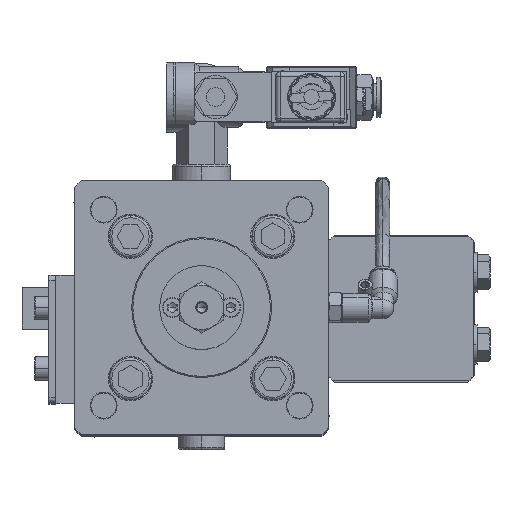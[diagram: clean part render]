
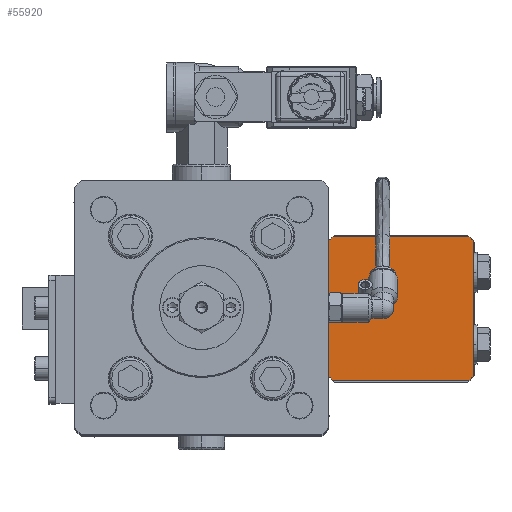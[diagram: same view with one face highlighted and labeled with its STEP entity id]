
A CAD part, top view. The second image highlights one B-rep face of the part: STEP entity #55920.
In plain terms, the highlighted planar face has unit normal (0, 0, 1) as drawn and (0, -1, 0) by its records, which use the part's own axes.
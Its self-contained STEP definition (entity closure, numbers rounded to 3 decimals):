
#950 = CARTESIAN_POINT ( 'NONE',  ( 0., 0., 0. ) ) ;
#6390 = ORIENTED_EDGE ( 'NONE', *, *, #63032, .T. ) ;
#7809 = VECTOR ( 'NONE', #36343, 1000. ) ;
#9004 = VERTEX_POINT ( 'NONE', #52318 ) ;
#9287 = DIRECTION ( 'NONE',  ( 0., 0., 1. ) ) ;
#11586 = AXIS2_PLACEMENT_3D ( 'NONE', #75279, #25251, #83586 ) ;
#15072 = CIRCLE ( 'NONE', #96145, 42.5 ) ;
#15161 = ORIENTED_EDGE ( 'NONE', *, *, #25064, .F. ) ;
#16680 = VECTOR ( 'NONE', #58995, 1000. ) ;
#17198 = CARTESIAN_POINT ( 'NONE',  ( 0., 0., 0. ) ) ;
#18181 = CARTESIAN_POINT ( 'NONE',  ( -31., 0., -31. ) ) ;
#19671 = DIRECTION ( 'NONE',  ( 0., 0., 1. ) ) ;
#21986 = VERTEX_POINT ( 'NONE', #73497 ) ;
#23433 = VERTEX_POINT ( 'NONE', #65931 ) ;
#23732 = EDGE_CURVE ( 'NONE', #36375, #9004, #52206, .T. ) ;
#25064 = EDGE_CURVE ( 'NONE', #23433, #100071, #38842, .T. ) ;
#25251 = DIRECTION ( 'NONE',  ( 0., -1., 0. ) ) ;
#25472 = DIRECTION ( 'NONE',  ( 0., 0., 1. ) ) ;
#26483 = DIRECTION ( 'NONE',  ( -1., 0., 0. ) ) ;
#28626 = VERTEX_POINT ( 'NONE', #107740 ) ;
#29617 = ORIENTED_EDGE ( 'NONE', *, *, #66560, .F. ) ;
#30367 = EDGE_CURVE ( 'NONE', #36375, #21986, #76104, .T. ) ;
#31589 = DIRECTION ( 'NONE',  ( 0., 0., -1. ) ) ;
#32347 = DIRECTION ( 'NONE',  ( 0., -1., 0. ) ) ;
#33143 = VECTOR ( 'NONE', #31589, 1000. ) ;
#36343 = DIRECTION ( 'NONE',  ( 0., 0., 1. ) ) ;
#36375 = VERTEX_POINT ( 'NONE', #90974 ) ;
#38842 = LINE ( 'NONE', #42157, #16680 ) ;
#40511 = CARTESIAN_POINT ( 'NONE',  ( 31., 0., 29.073 ) ) ;
#42157 = CARTESIAN_POINT ( 'NONE',  ( -31., 0., 31. ) ) ;
#43402 = LINE ( 'NONE', #18181, #62991 ) ;
#47626 = CIRCLE ( 'NONE', #85002, 42.5 ) ;
#47973 = VERTEX_POINT ( 'NONE', #40511 ) ;
#52206 = LINE ( 'NONE', #69907, #7809 ) ;
#52318 = CARTESIAN_POINT ( 'NONE',  ( -31., 0., 29.073 ) ) ;
#55643 = ORIENTED_EDGE ( 'NONE', *, *, #103709, .F. ) ;
#55920 = ADVANCED_FACE ( 'NONE', ( #75080 ), #61329, .F. ) ;
#56865 = AXIS2_PLACEMENT_3D ( 'NONE', #950, #59232, #9287 ) ;
#58085 = EDGE_CURVE ( 'NONE', #28626, #83311, #47626, .T. ) ;
#58995 = DIRECTION ( 'NONE',  ( 1., 0., 0. ) ) ;
#59232 = DIRECTION ( 'NONE',  ( 0., -1., 0. ) ) ;
#61329 = PLANE ( 'NONE',  #78984 ) ;
#62991 = VECTOR ( 'NONE', #26483, 1000. ) ;
#63032 = EDGE_CURVE ( 'NONE', #47973, #100071, #102625, .T. ) ;
#65931 = CARTESIAN_POINT ( 'NONE',  ( -29.073, 0., 31. ) ) ;
#66560 = EDGE_CURVE ( 'NONE', #28626, #21986, #43402, .T. ) ;
#69698 = DIRECTION ( 'NONE',  ( 0., 1., 0. ) ) ;
#69907 = CARTESIAN_POINT ( 'NONE',  ( -31., 0., -31. ) ) ;
#73199 = CARTESIAN_POINT ( 'NONE',  ( 31., 0., -31. ) ) ;
#73497 = CARTESIAN_POINT ( 'NONE',  ( -29.073, 0., -31. ) ) ;
#75080 = FACE_OUTER_BOUND ( 'NONE', #99312, .T. ) ;
#75279 = CARTESIAN_POINT ( 'NONE',  ( 0., 0., 0. ) ) ;
#75509 = DIRECTION ( 'NONE',  ( 0., -1., 0. ) ) ;
#76104 = CIRCLE ( 'NONE', #11586, 42.5 ) ;
#76966 = ORIENTED_EDGE ( 'NONE', *, *, #86191, .T. ) ;
#78984 = AXIS2_PLACEMENT_3D ( 'NONE', #85948, #69698, #19671 ) ;
#82267 = CARTESIAN_POINT ( 'NONE',  ( 0., 0., 0. ) ) ;
#83140 = ORIENTED_EDGE ( 'NONE', *, *, #58085, .T. ) ;
#83311 = VERTEX_POINT ( 'NONE', #104002 ) ;
#83586 = DIRECTION ( 'NONE',  ( 0., 0., 1. ) ) ;
#84567 = ORIENTED_EDGE ( 'NONE', *, *, #23732, .F. ) ;
#85002 = AXIS2_PLACEMENT_3D ( 'NONE', #82267, #32347, #90573 ) ;
#85147 = ORIENTED_EDGE ( 'NONE', *, *, #30367, .T. ) ;
#85948 = CARTESIAN_POINT ( 'NONE',  ( 0., 0., 0. ) ) ;
#86191 = EDGE_CURVE ( 'NONE', #23433, #9004, #15072, .T. ) ;
#90573 = DIRECTION ( 'NONE',  ( 0., 0., 1. ) ) ;
#90974 = CARTESIAN_POINT ( 'NONE',  ( -31., 0., -29.073 ) ) ;
#96145 = AXIS2_PLACEMENT_3D ( 'NONE', #17198, #75509, #25472 ) ;
#99312 = EDGE_LOOP ( 'NONE', ( #76966, #84567, #85147, #29617, #83140, #55643, #6390, #15161 ) ) ;
#99577 = LINE ( 'NONE', #73199, #33143 ) ;
#100071 = VERTEX_POINT ( 'NONE', #100319 ) ;
#100319 = CARTESIAN_POINT ( 'NONE',  ( 29.073, 0., 31. ) ) ;
#102625 = CIRCLE ( 'NONE', #56865, 42.5 ) ;
#103709 = EDGE_CURVE ( 'NONE', #47973, #83311, #99577, .T. ) ;
#104002 = CARTESIAN_POINT ( 'NONE',  ( 31., 0., -29.073 ) ) ;
#107740 = CARTESIAN_POINT ( 'NONE',  ( 29.073, 0., -31. ) ) ;
